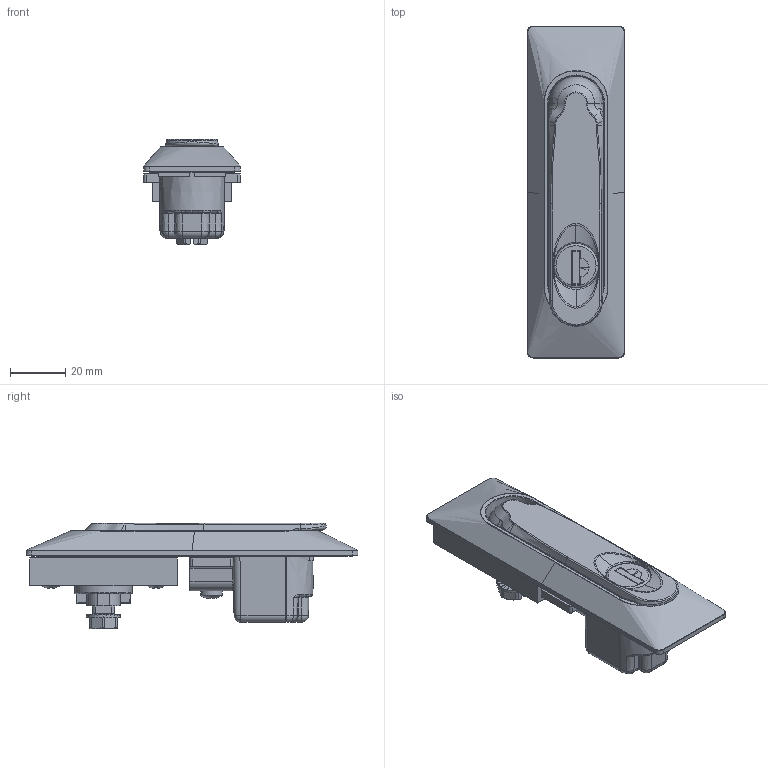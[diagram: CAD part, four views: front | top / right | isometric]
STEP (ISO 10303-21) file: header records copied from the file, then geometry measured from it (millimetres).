
FILE_DESCRIPTION (( 'STEP AP203' ), '1' );
FILE_NAME ('1B.RS151.STEP', '2016-08-19T11:33:19', ( 'RST-Dolba' ), ( '' ), 'SwSTEP 2.0', 'SolidWorks 2015', '' );
FILE_SCHEMA (( 'CONFIG_CONTROL_DESIGN' ));
Length unit declared in the file: millimetre
Products named in the file (17): S6PZ_M6x16; 2.B.001_RO.1333; 1C.RS274.001.01_A; 1B.RS100.001.03_A; 1.RS150.009_B; DIN 3771_11.11x1.78; 1C.901.005_L.12.5; DIN 913_M3x4; 5.R00.123.006_A.1; 5.R00.010.06_A; 1B.RS151; 1.RS150.008_A; 5.R00.010.01_D; DIN 7981_C.4.2x13; Klamka RS151 - NEW_A.1; 1.RS151.007_A; 1.RS150.015_A
Assembly tree (18 placements, depth 2):
  1B.RS151
    5.R00.010.01_D
    Klamka RS151 - NEW_A.1
    1.RS150.015_A
    2.B.001_RO.1333
    1B.RS100.001.03_A
    DIN 3771_11.11x1.78
    DIN 913_M3x4
    5.R00.010.06_A
    1.RS150.008_A
    DIN 7981_C.4.2x13  x3
    1.RS151.007_A
    S6PZ_M6x16
    1C.RS274.001.01_A
    1.RS150.009_B
    1C.901.005_L.12.5
    5.R00.123.006_A.1
Bounding box: 35 x 120 x 38.01 mm (x, y, z)
Volume: 45047.9 mm3; surface area: 45596.1 mm2
Topology: 18 solids, 18 shells, 1561 faces, 3968 edges, 2456 vertices
Faces by surface type: plane 567, cylinder 355, bspline 315, torus 121, cone 120, sphere 83
Entity records: 71159 total; most frequent: CARTESIAN_POINT 37328, ORIENTED_EDGE 7274, DIRECTION 6001, EDGE_CURVE 3637, AXIS2_PLACEMENT_3D 2329, VERTEX_POINT 2254, EDGE_LOOP 1527, ADVANCED_FACE 1454
